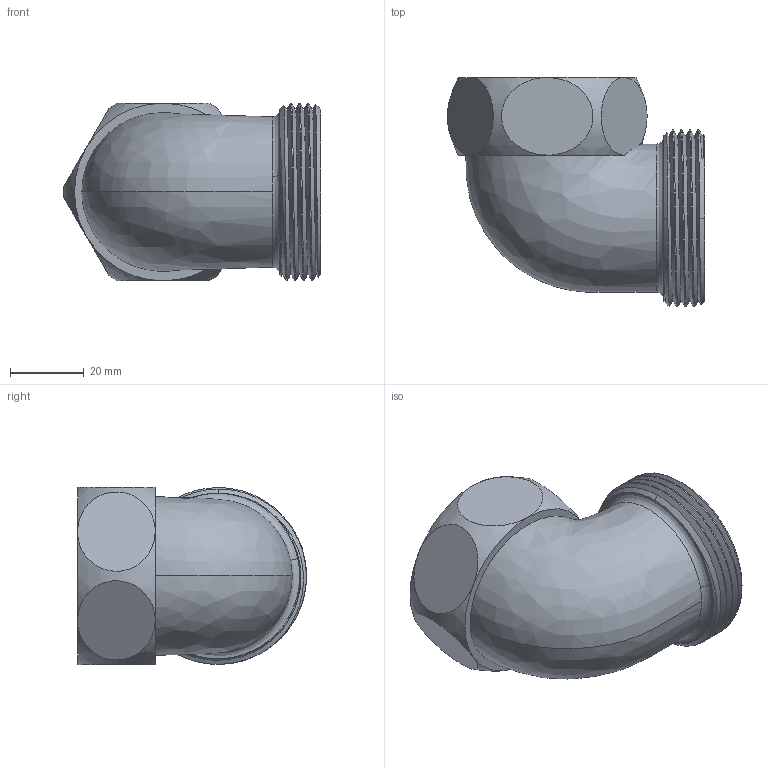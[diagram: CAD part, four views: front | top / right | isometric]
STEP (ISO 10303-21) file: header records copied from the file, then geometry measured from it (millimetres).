
FILE_DESCRIPTION (( 'STEP AP203' ), '1' );
FILE_NAME ('114X112.STEP', '2012-07-02T23:26:12', ( 'Administrators' ), ( 'JUJUMAO' ), 'SwSTEP 2.0', 'SolidWorks 2008', '' );
FILE_SCHEMA (( 'CONFIG_CONTROL_DESIGN' ));
Length unit declared in the file: millimetre
Products named in the file (1): 114X112
Bounding box: 69.47 x 61.87 x 48 mm (x, y, z)
Volume: 35945.1 mm3; surface area: 23755.8 mm2
Topology: 1 solids, 1 shells, 66 faces, 178 edges, 116 vertices
Faces by surface type: cylinder 25, plane 15, cone 10, bspline 10, torus 6
Entity records: 6136 total; most frequent: CARTESIAN_POINT 4660, ORIENTED_EDGE 356, DIRECTION 220, EDGE_CURVE 178, VERTEX_POINT 116, AXIS2_PLACEMENT_3D 90, EDGE_LOOP 70, ADVANCED_FACE 66
